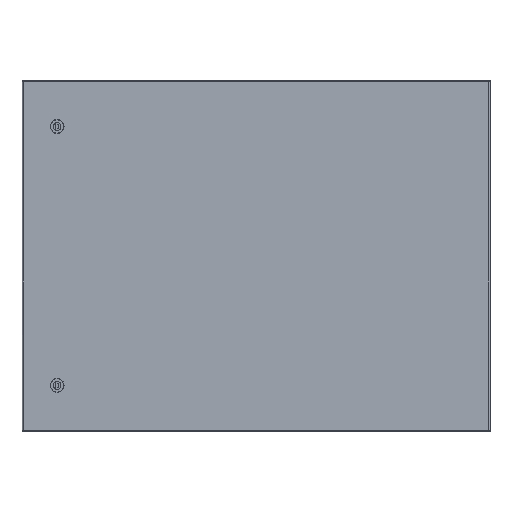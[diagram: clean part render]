
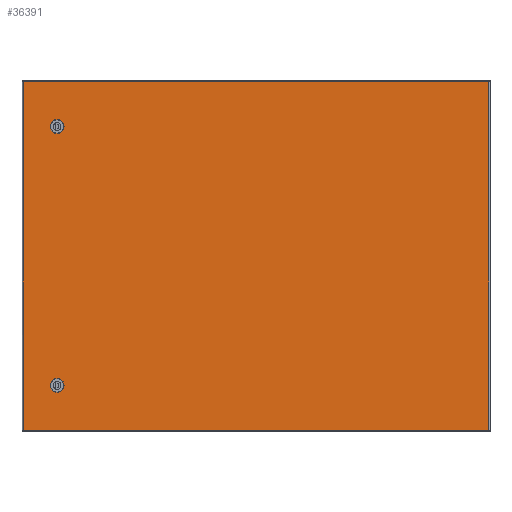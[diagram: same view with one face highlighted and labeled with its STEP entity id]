
A CAD part, top view. The second image highlights one B-rep face of the part: STEP entity #36391.
In plain terms, the highlighted planar face has unit normal (0, 0, 1).
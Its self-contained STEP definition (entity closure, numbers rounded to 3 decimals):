
#35396=CARTESIAN_POINT(' ',(2.8,0.8,0.));
#35401=DIRECTION(' ',(1.,0.,0.));
#35406=VECTOR(' ',#35401,1.);
#35411=LINE('',#35396,#35406);
#35416=CARTESIAN_POINT(' ',(2.8,0.8,0.));
#35417=VERTEX_POINT(' ',#35416);
#35421=CARTESIAN_POINT(' ',(991.2,0.8,0.));
#35422=VERTEX_POINT(' ',#35421);
#35426=EDGE_CURVE(' ',#35417,#35422,#35411,.T.);
#36251=DIRECTION(' ',(-0.,-0.,1.));
#36256=CARTESIAN_POINT(' ',(991.2,0.8,0.));
#36261=DIRECTION(' ',(0.,1.,0.));
#36266=AXIS2_PLACEMENT_3D(' ',#36256,#36251,#36261);
#36271=PLANE('NONE',#36266);
#36276=ORIENTED_EDGE(' ',*,*,#35426,.T.);
#36281=CARTESIAN_POINT(' ',(991.2,740.2,0.));
#36286=DIRECTION(' ',(0.,-1.,0.));
#36291=VECTOR(' ',#36286,1.);
#36296=LINE('',#36281,#36291);
#36301=CARTESIAN_POINT(' ',(991.2,740.2,0.));
#36302=VERTEX_POINT(' ',#36301);
#36306=EDGE_CURVE(' ',#36302,#35422,#36296,.T.);
#36311=ORIENTED_EDGE(' ',*,*,#36306,.F.);
#36316=CARTESIAN_POINT(' ',(991.2,740.2,0.));
#36321=DIRECTION(' ',(-1.,0.,0.));
#36326=VECTOR(' ',#36321,1.);
#36331=LINE('',#36316,#36326);
#36336=CARTESIAN_POINT(' ',(2.8,740.2,0.));
#36337=VERTEX_POINT(' ',#36336);
#36341=EDGE_CURVE(' ',#36302,#36337,#36331,.T.);
#36346=ORIENTED_EDGE(' ',*,*,#36341,.T.);
#36351=CARTESIAN_POINT(' ',(2.8,740.2,0.));
#36356=DIRECTION(' ',(0.,-1.,0.));
#36361=VECTOR(' ',#36356,1.);
#36366=LINE('',#36351,#36361);
#36371=EDGE_CURVE(' ',#36337,#35417,#36366,.T.);
#36376=ORIENTED_EDGE(' ',*,*,#36371,.T.);
#36381=EDGE_LOOP(' ',(#36276,#36311,#36346,#36376));
#36386=FACE_OUTER_BOUND(' ',#36381,.T.);
#36391=ADVANCED_FACE('NONE',(#36386),#36271,.T.);
